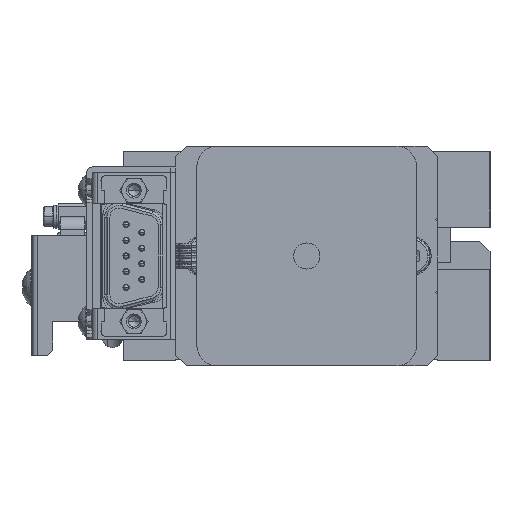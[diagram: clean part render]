
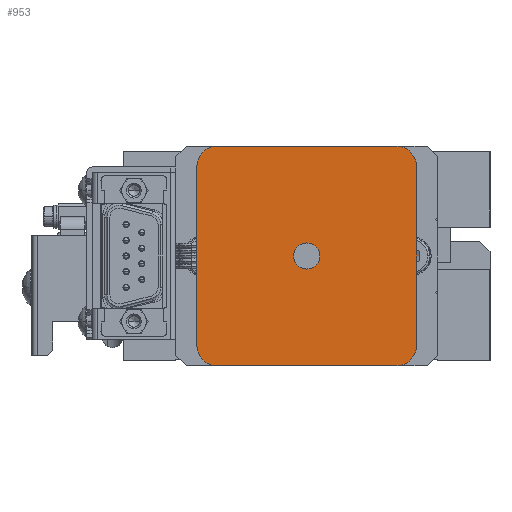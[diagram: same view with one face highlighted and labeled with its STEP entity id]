
A CAD part, left-side view. The second image highlights one B-rep face of the part: STEP entity #953.
In plain terms, the highlighted planar face has unit normal (-1, 0, 0).
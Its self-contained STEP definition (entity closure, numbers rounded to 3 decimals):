
#953=ADVANCED_FACE('',(#11311,#11312),#11310,.T.);
#11310=PLANE('',#35224);
#11311=FACE_OUTER_BOUND('',#35225,.T.);
#11312=FACE_BOUND('',#35226,.T.);
#35221=CARTESIAN_POINT('',(-166.,-25.2,45.2));
#35222=DIRECTION('',(-1.,0.,0.));
#35223=DIRECTION('',(0.,1.,0.));
#35224=AXIS2_PLACEMENT_3D('',#35221,#35222,#35223);
#35225=EDGE_LOOP('',(#51310,#51311,#51312,#51313,#51314,#51315,#51316,#51317));
#35226=EDGE_LOOP('',(#51318,#51319));
#51310=ORIENTED_EDGE('',*,*,#62073,.F.);
#51311=ORIENTED_EDGE('',*,*,#62074,.T.);
#51312=ORIENTED_EDGE('',*,*,#62038,.F.);
#51313=ORIENTED_EDGE('',*,*,#62075,.T.);
#51314=ORIENTED_EDGE('',*,*,#62060,.F.);
#51315=ORIENTED_EDGE('',*,*,#62076,.T.);
#51316=ORIENTED_EDGE('',*,*,#62064,.F.);
#51317=ORIENTED_EDGE('',*,*,#62077,.T.);
#51318=ORIENTED_EDGE('',*,*,#62078,.F.);
#51319=ORIENTED_EDGE('',*,*,#62079,.F.);
#62038=EDGE_CURVE('',#78064,#78065,#78066,.T.);
#62060=EDGE_CURVE('',#78211,#78168,#78218,.T.);
#62064=EDGE_CURVE('',#78238,#78245,#78246,.T.);
#62073=EDGE_CURVE('',#78301,#78258,#78308,.T.);
#62074=EDGE_CURVE('',#78301,#78065,#78314,.T.);
#62075=EDGE_CURVE('',#78064,#78168,#78320,.T.);
#62076=EDGE_CURVE('',#78211,#78245,#78326,.T.);
#62077=EDGE_CURVE('',#78238,#78258,#78332,.T.);
#62078=EDGE_CURVE('',#78338,#78339,#78340,.T.);
#62079=EDGE_CURVE('',#78339,#78338,#78346,.T.);
#78064=VERTEX_POINT('',#114463);
#78065=VERTEX_POINT('',#114464);
#78066=LINE('',#114465,#114466);
#78168=VERTEX_POINT('',#114532);
#78211=VERTEX_POINT('',#114557);
#78218=LINE('',#114561,#114562);
#78238=VERTEX_POINT('',#114572);
#78245=VERTEX_POINT('',#114576);
#78246=LINE('',#114577,#114578);
#78258=VERTEX_POINT('',#114583);
#78301=VERTEX_POINT('',#114608);
#78308=LINE('',#114612,#114613);
#78314=CIRCLE('',#114618,4.);
#78320=CIRCLE('',#114622,4.);
#78326=CIRCLE('',#114626,4.);
#78332=CIRCLE('',#114630,4.);
#78338=VERTEX_POINT('',#114631);
#78339=VERTEX_POINT('',#114632);
#78340=CIRCLE('',#114636,2.5);
#78346=CIRCLE('',#114640,2.5);
#114463=CARTESIAN_POINT('',(-166.,21.,3.));
#114464=CARTESIAN_POINT('',(-166.,21.,37.));
#114465=CARTESIAN_POINT('',(-166.,21.,3.));
#114466=VECTOR('',#114467,34.);
#114467=DIRECTION('',(0.,0.,1.));
#114532=CARTESIAN_POINT('',(-166.,17.,-1.));
#114557=CARTESIAN_POINT('',(-166.,-17.,-1.));
#114561=CARTESIAN_POINT('',(-166.,-17.,-1.));
#114562=VECTOR('',#114563,34.);
#114563=DIRECTION('',(0.,1.,0.));
#114572=CARTESIAN_POINT('',(-166.,-21.,37.));
#114576=CARTESIAN_POINT('',(-166.,-21.,3.));
#114577=CARTESIAN_POINT('',(-166.,-21.,37.));
#114578=VECTOR('',#114579,34.);
#114579=DIRECTION('',(0.,0.,-1.));
#114583=CARTESIAN_POINT('',(-166.,-17.,41.));
#114608=CARTESIAN_POINT('',(-166.,17.,41.));
#114612=CARTESIAN_POINT('',(-166.,17.,41.));
#114613=VECTOR('',#114614,34.);
#114614=DIRECTION('',(0.,-1.,0.));
#114615=CARTESIAN_POINT('',(-166.,17.,37.));
#114616=DIRECTION('',(-1.,0.,0.));
#114617=DIRECTION('',(0.,-1.,0.));
#114618=AXIS2_PLACEMENT_3D('',#114615,#114616,#114617);
#114619=CARTESIAN_POINT('',(-166.,17.,3.));
#114620=DIRECTION('',(-1.,0.,0.));
#114621=DIRECTION('',(0.,-1.,0.));
#114622=AXIS2_PLACEMENT_3D('',#114619,#114620,#114621);
#114623=CARTESIAN_POINT('',(-166.,-17.,3.));
#114624=DIRECTION('',(-1.,0.,0.));
#114625=DIRECTION('',(0.,-1.,0.));
#114626=AXIS2_PLACEMENT_3D('',#114623,#114624,#114625);
#114627=CARTESIAN_POINT('',(-166.,-17.,37.));
#114628=DIRECTION('',(-1.,0.,0.));
#114629=DIRECTION('',(0.,-1.,0.));
#114630=AXIS2_PLACEMENT_3D('',#114627,#114628,#114629);
#114631=CARTESIAN_POINT('',(-166.,-2.5,20.));
#114632=CARTESIAN_POINT('',(-166.,2.5,20.));
#114633=CARTESIAN_POINT('',(-166.,0.,20.));
#114634=DIRECTION('',(-1.,0.,0.));
#114635=DIRECTION('',(0.,1.,0.));
#114636=AXIS2_PLACEMENT_3D('',#114633,#114634,#114635);
#114637=CARTESIAN_POINT('',(-166.,0.,20.));
#114638=DIRECTION('',(-1.,0.,0.));
#114639=DIRECTION('',(0.,1.,0.));
#114640=AXIS2_PLACEMENT_3D('',#114637,#114638,#114639);
